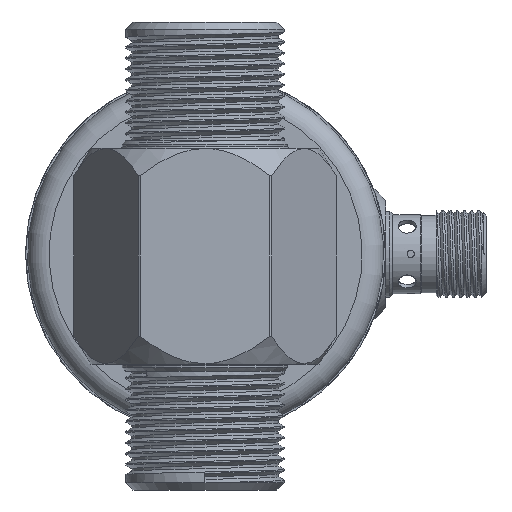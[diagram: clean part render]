
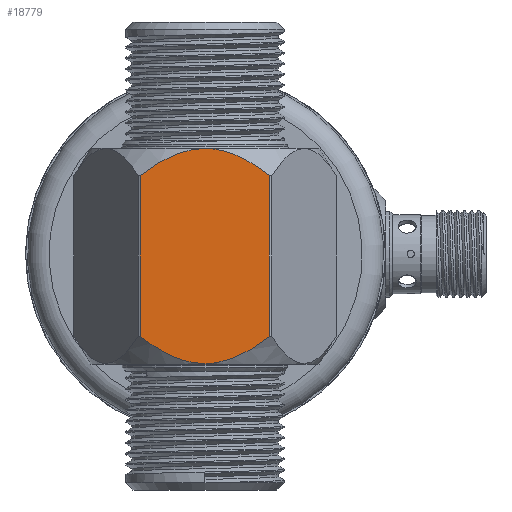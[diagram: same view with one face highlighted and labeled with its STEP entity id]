
A CAD part, front view. The second image highlights one B-rep face of the part: STEP entity #18779.
In plain terms, the highlighted planar face has unit normal (0, -1, 0) as drawn and (1, 0, 0) by its records, which use the part's own axes.
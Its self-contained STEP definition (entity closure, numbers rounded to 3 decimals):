
#537 = VECTOR ( 'NONE', #13995, 1000. ) ;
#782 = CARTESIAN_POINT ( 'NONE',  ( 15.9, -7.654, 12.159 ) ) ;
#874 = CARTESIAN_POINT ( 'NONE',  ( 15.9, 7.654, -12.159 ) ) ;
#1051 = CARTESIAN_POINT ( 'NONE',  ( 15.9, -8.316, 11.68 ) ) ;
#1410 = CARTESIAN_POINT ( 'NONE',  ( 15.9, -4.032, -14.155 ) ) ;
#2033 = PLANE ( 'NONE',  #19480 ) ;
#2736 = CARTESIAN_POINT ( 'NONE',  ( 15.9, -4.042, 14.152 ) ) ;
#2874 = CARTESIAN_POINT ( 'NONE',  ( 15.9, 4.032, 14.155 ) ) ;
#3151 = EDGE_LOOP ( 'NONE', ( #5774, #6053, #5011, #6751 ) ) ;
#3224 = CARTESIAN_POINT ( 'NONE',  ( 15.9, 6.618, -12.824 ) ) ;
#3629 = CARTESIAN_POINT ( 'NONE',  ( 15.9, 0.825, -14.91 ) ) ;
#3900 = CARTESIAN_POINT ( 'NONE',  ( 15.9, 2.063, -14.73 ) ) ;
#4550 = VERTEX_POINT ( 'NONE', #19800 ) ;
#5011 = ORIENTED_EDGE ( 'NONE', *, *, #25590, .F. ) ;
#5084 = CARTESIAN_POINT ( 'NONE',  ( 15.9, -6.266, 13.037 ) ) ;
#5635 = CARTESIAN_POINT ( 'NONE',  ( 15.9, 8.958, -33. ) ) ;
#5774 = ORIENTED_EDGE ( 'NONE', *, *, #11859, .F. ) ;
#6053 = ORIENTED_EDGE ( 'NONE', *, *, #13370, .F. ) ;
#6751 = ORIENTED_EDGE ( 'NONE', *, *, #9191, .F. ) ;
#7181 = CARTESIAN_POINT ( 'NONE',  ( 15.9, 8.958, 11.176 ) ) ;
#8437 = FACE_OUTER_BOUND ( 'NONE', #3151, .T. ) ;
#9191 = EDGE_CURVE ( 'NONE', #4550, #22850, #13157, .T. ) ;
#9261 = CARTESIAN_POINT ( 'NONE',  ( 15.9, 6.6, 12.836 ) ) ;
#9481 = CARTESIAN_POINT ( 'NONE',  ( 15.9, 5.172, -13.63 ) ) ;
#9534 = CARTESIAN_POINT ( 'NONE',  ( 15.9, -2.063, 14.73 ) ) ;
#9626 = CARTESIAN_POINT ( 'NONE',  ( 15.9, 3.268, -14.435 ) ) ;
#10039 = CARTESIAN_POINT ( 'NONE',  ( 15.9, -6.243, -13.05 ) ) ;
#10712 = VECTOR ( 'NONE', #12054, 1000. ) ;
#11374 = CARTESIAN_POINT ( 'NONE',  ( 15.9, 7.647, 12.165 ) ) ;
#11463 = CARTESIAN_POINT ( 'NONE',  ( 15.9, 8.316, -11.68 ) ) ;
#11510 = CARTESIAN_POINT ( 'NONE',  ( 15.9, 3.256, 14.439 ) ) ;
#11859 = EDGE_CURVE ( 'NONE', #19564, #4550, #16492, .T. ) ;
#12054 = DIRECTION ( 'NONE',  ( 0., 0., -1. ) ) ;
#12282 = CARTESIAN_POINT ( 'NONE',  ( 15.9, -6.6, -12.836 ) ) ;
#13157 = B_SPLINE_CURVE_WITH_KNOTS ( 'NONE', 3,
 ( #23972, #1051, #782, #17957, #5084, #26324, #21879, #2736, #17684, #9534, #26189, #24237, #15595, #18085, #13478, #11510, #2874, #20051, #21743, #26596, #9261, #11374, #17824, #7181 ),
 .UNSPECIFIED., .F., .F.,
 ( 4, 2, 2, 2, 2, 2, 2, 2, 2, 2, 2, 4 ),
 ( 0.025, 0.028, 0.029, 0.03, 0.033, 0.034, 0.035, 0.038, 0.04, 0.041, 0.042, 0.045 ),
 .UNSPECIFIED. ) ;
#13370 = EDGE_CURVE ( 'NONE', #15511, #19564, #14651, .T. ) ;
#13478 = CARTESIAN_POINT ( 'NONE',  ( 15.9, 1.634, 14.834 ) ) ;
#13835 = CARTESIAN_POINT ( 'NONE',  ( 15.9, 8.958, -11.176 ) ) ;
#13995 = DIRECTION ( 'NONE',  ( 0., 0., 1. ) ) ;
#14387 = CARTESIAN_POINT ( 'NONE',  ( 15.9, -3.256, -14.439 ) ) ;
#14651 = B_SPLINE_CURVE_WITH_KNOTS ( 'NONE', 3,
 ( #13835, #11463, #874, #3224, #17907, #26409, #9481, #20269, #9626, #3900, #24994, #3629, #14801, #23057, #18720, #14387, #1410, #22918, #16475, #10039, #12282, #16620, #25407, #23327 ),
 .UNSPECIFIED., .F., .F.,
 ( 4, 2, 2, 2, 2, 2, 2, 2, 2, 2, 2, 4 ),
 ( 0.025, 0.028, 0.029, 0.03, 0.033, 0.034, 0.035, 0.038, 0.04, 0.041, 0.042, 0.045 ),
 .UNSPECIFIED. ) ;
#14801 = CARTESIAN_POINT ( 'NONE',  ( 15.9, 0.414, -14.935 ) ) ;
#14889 = DIRECTION ( 'NONE',  ( -1., 0., 0. ) ) ;
#15511 = VERTEX_POINT ( 'NONE', #25886 ) ;
#15595 = CARTESIAN_POINT ( 'NONE',  ( 15.9, -0.414, 14.935 ) ) ;
#16094 = CARTESIAN_POINT ( 'NONE',  ( 15.9, -8.958, -33. ) ) ;
#16400 = LINE ( 'NONE', #5635, #10712 ) ;
#16475 = CARTESIAN_POINT ( 'NONE',  ( 15.9, -5.521, -13.451 ) ) ;
#16492 = LINE ( 'NONE', #16094, #537 ) ;
#16620 = CARTESIAN_POINT ( 'NONE',  ( 15.9, -7.647, -12.165 ) ) ;
#16973 = CARTESIAN_POINT ( 'NONE',  ( 15.9, -9.18, 15. ) ) ;
#17684 = CARTESIAN_POINT ( 'NONE',  ( 15.9, -3.268, 14.435 ) ) ;
#17824 = CARTESIAN_POINT ( 'NONE',  ( 15.9, 8.314, 11.682 ) ) ;
#17907 = CARTESIAN_POINT ( 'NONE',  ( 15.9, 6.266, -13.037 ) ) ;
#17957 = CARTESIAN_POINT ( 'NONE',  ( 15.9, -6.618, 12.824 ) ) ;
#18085 = CARTESIAN_POINT ( 'NONE',  ( 15.9, 0.818, 14.936 ) ) ;
#18720 = CARTESIAN_POINT ( 'NONE',  ( 15.9, -1.634, -14.834 ) ) ;
#18779 = ADVANCED_FACE ( 'NONE', ( #8437 ), #2033, .F. ) ;
#19480 = AXIS2_PLACEMENT_3D ( 'NONE', #16973, #14889, #23406 ) ;
#19564 = VERTEX_POINT ( 'NONE', #27526 ) ;
#19800 = CARTESIAN_POINT ( 'NONE',  ( 15.9, -8.958, 11.176 ) ) ;
#20051 = CARTESIAN_POINT ( 'NONE',  ( 15.9, 5.154, 13.639 ) ) ;
#20269 = CARTESIAN_POINT ( 'NONE',  ( 15.9, 4.042, -14.152 ) ) ;
#21743 = CARTESIAN_POINT ( 'NONE',  ( 15.9, 5.521, 13.451 ) ) ;
#21879 = CARTESIAN_POINT ( 'NONE',  ( 15.9, -5.172, 13.63 ) ) ;
#22850 = VERTEX_POINT ( 'NONE', #23762 ) ;
#22918 = CARTESIAN_POINT ( 'NONE',  ( 15.9, -5.154, -13.639 ) ) ;
#23057 = CARTESIAN_POINT ( 'NONE',  ( 15.9, -0.818, -14.936 ) ) ;
#23327 = CARTESIAN_POINT ( 'NONE',  ( 15.9, -8.958, -11.176 ) ) ;
#23406 = DIRECTION ( 'NONE',  ( 0., -1., 0. ) ) ;
#23762 = CARTESIAN_POINT ( 'NONE',  ( 15.9, 8.958, 11.176 ) ) ;
#23972 = CARTESIAN_POINT ( 'NONE',  ( 15.9, -8.958, 11.176 ) ) ;
#24237 = CARTESIAN_POINT ( 'NONE',  ( 15.9, -0.825, 14.91 ) ) ;
#24994 = CARTESIAN_POINT ( 'NONE',  ( 15.9, 1.651, -14.807 ) ) ;
#25407 = CARTESIAN_POINT ( 'NONE',  ( 15.9, -8.314, -11.682 ) ) ;
#25590 = EDGE_CURVE ( 'NONE', #22850, #15511, #16400, .T. ) ;
#25886 = CARTESIAN_POINT ( 'NONE',  ( 15.9, 8.958, -11.176 ) ) ;
#26189 = CARTESIAN_POINT ( 'NONE',  ( 15.9, -1.651, 14.807 ) ) ;
#26324 = CARTESIAN_POINT ( 'NONE',  ( 15.9, -5.544, 13.439 ) ) ;
#26409 = CARTESIAN_POINT ( 'NONE',  ( 15.9, 5.544, -13.439 ) ) ;
#26596 = CARTESIAN_POINT ( 'NONE',  ( 15.9, 6.243, 13.05 ) ) ;
#27526 = CARTESIAN_POINT ( 'NONE',  ( 15.9, -8.958, -11.176 ) ) ;
